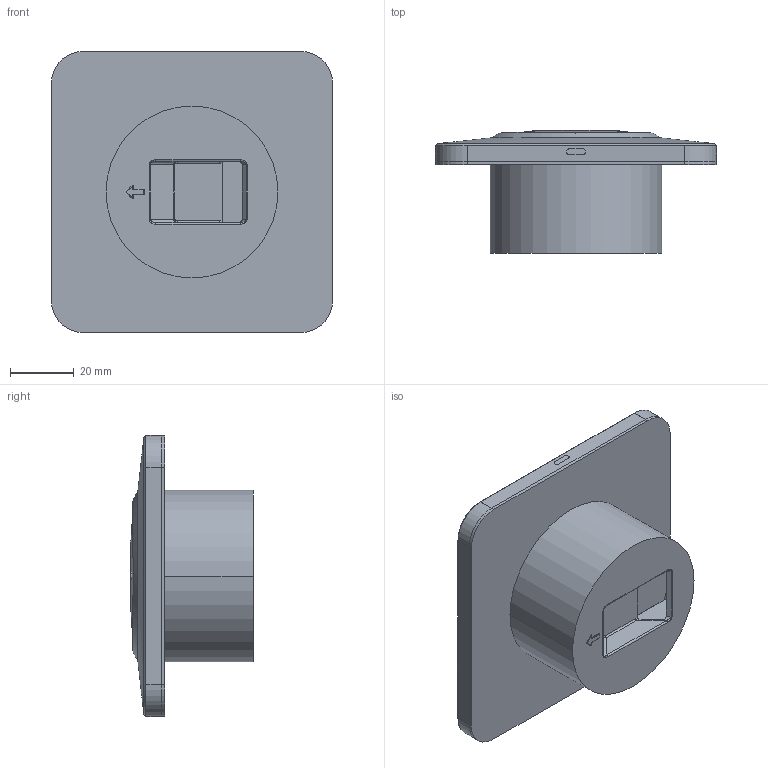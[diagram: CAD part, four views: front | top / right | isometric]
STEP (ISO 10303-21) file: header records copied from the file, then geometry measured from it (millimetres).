
FILE_DESCRIPTION (( 'STEP AP214' ), '1' );
FILE_NAME ('CleanSwitch wt_blank_open2.STEP', '2021-07-05T07:54:14', ( '' ), ( '' ), 'SwSTEP 2.0', 'SolidWorks 2017', '' );
FILE_SCHEMA (( 'AUTOMOTIVE_DESIGN' ));
Length unit declared in the file: millimetre
Products named in the file (2): CleanSwitch wt_blank_open2
Bounding box: 88 x 38.7 x 88 mm (x, y, z)
Surface area: 44311.5 mm2 (no closed solid volume)
Topology: 0 solids, 6 shells, 186 faces, 472 edges, 299 vertices
Faces by surface type: cylinder 64, bspline 59, plane 52, cone 11
Entity records: 10623 total; most frequent: CARTESIAN_POINT 5805, ORIENTED_EDGE 896, DIRECTION 732, EDGE_CURVE 468, VERTEX_POINT 299, AXIS2_PLACEMENT_3D 271, EDGE_LOOP 197, VECTOR 190
